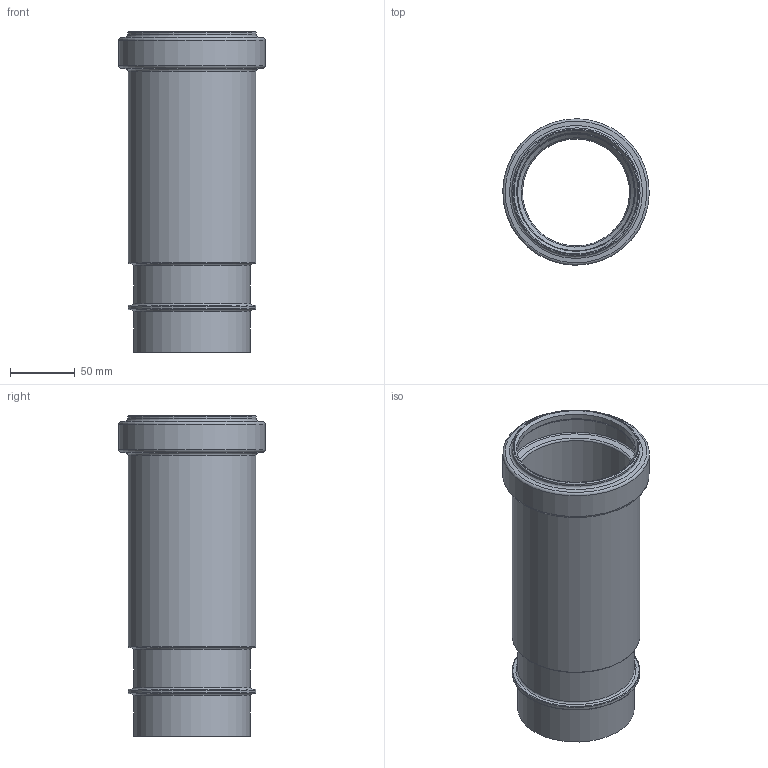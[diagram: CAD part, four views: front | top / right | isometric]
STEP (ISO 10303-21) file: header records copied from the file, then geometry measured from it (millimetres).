
FILE_DESCRIPTION(/* description */ (''),/* implementation_level */ '2;1');
FILE_NAME(/* name */ 'C:\Planerdaten\Export PLA\366.700.16.1\stp\366700.stp',/* time_stamp */ '2020-07-07T08:50:34+02:00',/* author */ ('JANAN'),/* organization */ (''),/* preprocessor_version */ 'ST-DEVELOPER v16.13',/* originating_system */ 'Autodesk Inventor 2018',/* authorisation */ '');
FILE_SCHEMA (('AUTOMOTIVE_DESIGN { 1 0 10303 214 3 1 1 }'));
Length unit declared in the file: millimetre
Products named in the file (1): Langmuffe m/Doppelbund PE-HD d90
Bounding box: 113.57 x 113.57 x 248.73 mm (x, y, z)
Volume: 294313.9 mm3; surface area: 159314.9 mm2
Topology: 1 solids, 1 shells, 38 faces, 85 edges, 49 vertices
Faces by surface type: torus 17, cylinder 10, cone 9, plane 2
Full cylindrical faces by diameter (mm): 83.025 x1, 90.375 x2, 91.7 x1, 92.075 x1, 99.05 x2, 99.425 x1, 106.25 x1, 113.6 x1
Entity records: 839 total; most frequent: DIRECTION 154, CARTESIAN_POINT 115, AXIS2_PLACEMENT_3D 77, EDGE_LOOP 76, ORIENTED_EDGE 76, STYLED_ITEM 39, FACE_BOUND 38, FACE_OUTER_BOUND 38
